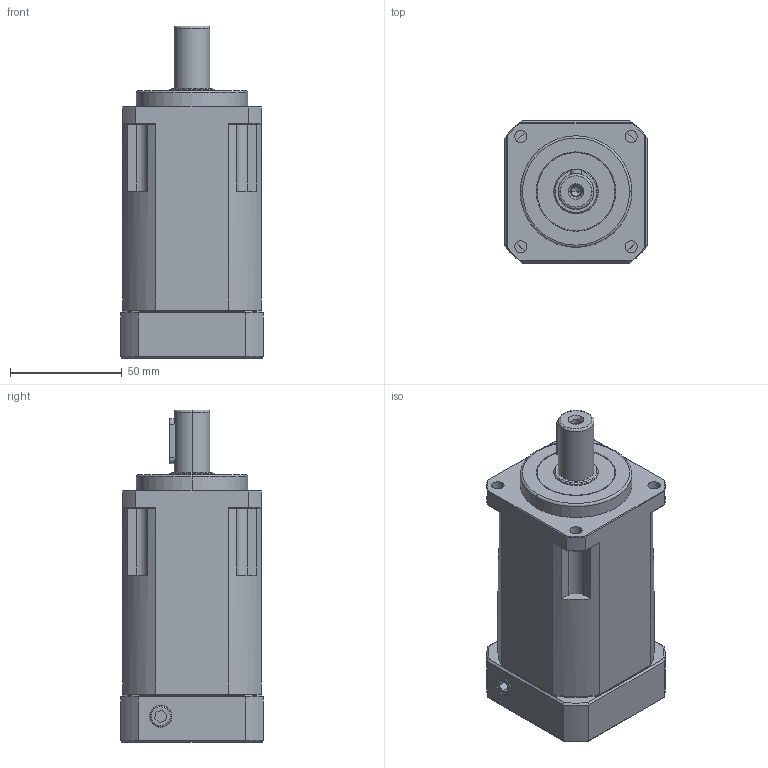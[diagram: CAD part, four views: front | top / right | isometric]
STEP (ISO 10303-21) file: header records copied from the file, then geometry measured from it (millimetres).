
FILE_DESCRIPTION (( 'STEP AP203' ), '1' );
FILE_NAME ('SB62A-2-50M5.step', '2018-03-20T07:09:33', ( 'lm1221' ), ( '' ), 'SwSTEP 2.0', 'SolidWorks 2017', '' );
FILE_SCHEMA (( 'CONFIG_CONTROL_DESIGN' ));
Length unit declared in the file: millimetre
Products named in the file (1): SB62A-2-50M5
Bounding box: 64 x 64 x 148.8 mm (x, y, z)
Volume: 366787 mm3; surface area: 59170.7 mm2
Topology: 1 solids, 14 shells, 549 faces, 1318 edges, 812 vertices
Faces by surface type: plane 238, cylinder 162, cone 124, torus 23, bspline 2
Entity records: 16448 total; most frequent: CARTESIAN_POINT 3512, DIRECTION 2821, ORIENTED_EDGE 2584, EDGE_CURVE 1292, AXIS2_PLACEMENT_3D 1113, VERTEX_POINT 812, EDGE_LOOP 616, LINE 595
